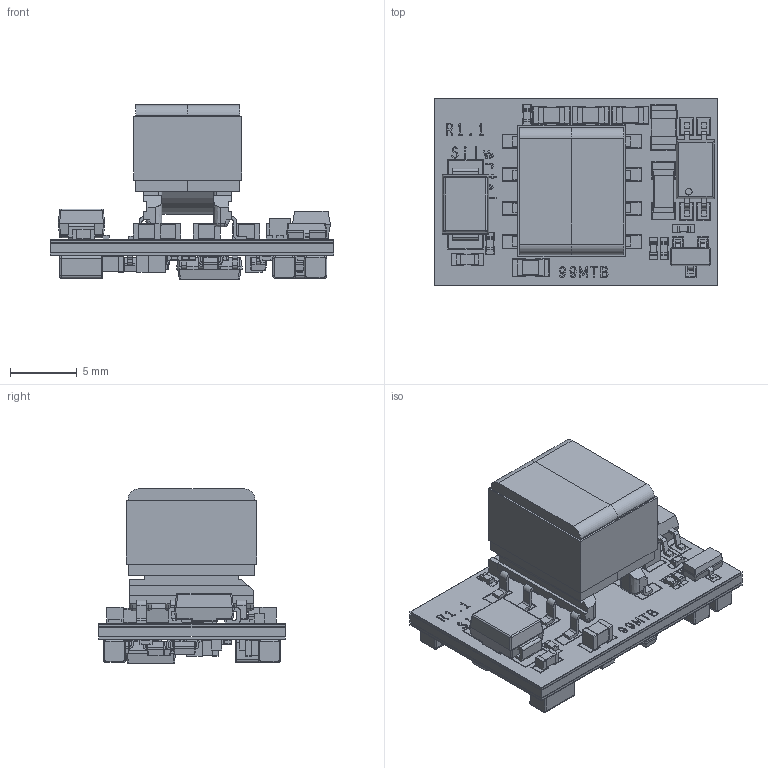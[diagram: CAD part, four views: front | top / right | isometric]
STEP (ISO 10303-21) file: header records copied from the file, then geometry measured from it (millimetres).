
FILE_DESCRIPTION(('FreeCAD Model'),'2;1');
FILE_NAME('Open CASCADE Shape Model','2024-11-04T13:58:49',(''),(''), 'Open CASCADE STEP processor 7.6','FreeCAD','Unknown');
FILE_SCHEMA(('AUTOMOTIVE_DESIGN { 1 0 10303 214 1 1 1 1 }'));
Products named in the file (1): Ag9900MTB_Detailed
Bounding box: 21.21 x 13.92 x 13.04 mm (x, y, z)
Surface area: 5363.6 mm2 (no closed solid volume)
Topology: 0 solids, 4016 shells, 4016 faces, 20298 edges, 20258 vertices
Faces by surface type: extrusion 2787, revolution 981, bspline 248
Entity records: 250704 total; most frequent: CARTESIAN_POINT 47352, DIRECTION 30716, VECTOR 22401, ORIENTED_EDGE 20258, EDGE_CURVE 20258, VERTEX_POINT 20258, LINE 19614, FACE_BOUND 4338
